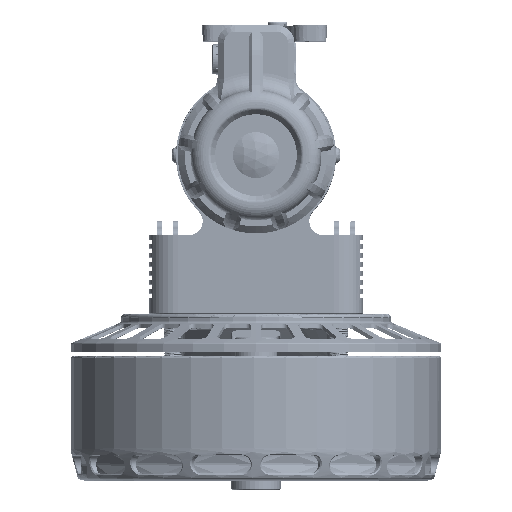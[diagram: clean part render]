
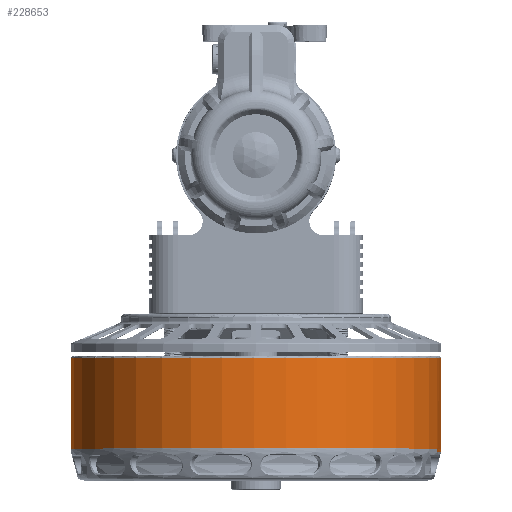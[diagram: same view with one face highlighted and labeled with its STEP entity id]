
A CAD part, top view. The second image highlights one B-rep face of the part: STEP entity #228653.
In plain terms, the highlighted cylindrical face has radius 52 mm (diameter 104 mm), a partial arc.
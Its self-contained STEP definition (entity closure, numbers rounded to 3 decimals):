
#68073=CARTESIAN_POINT('',(0.,-34.4,83.6));
#68074=DIRECTION('',(0.,-1.,0.));
#68075=DIRECTION('',(1.,0.,0.));
#68076=AXIS2_PLACEMENT_3D('',#68073,#68074,#68075);
#68078=CARTESIAN_POINT('',(0.,-34.4,83.6));
#68079=DIRECTION('',(0.,-1.,0.));
#68080=DIRECTION('',(1.,0.,0.007));
#68081=AXIS2_PLACEMENT_3D('',#68078,#68079,#68080);
#68083=CARTESIAN_POINT('',(0.,-34.4,83.6));
#68084=DIRECTION('',(0.,-1.,0.));
#68085=DIRECTION('',(0.981,0.,0.195));
#68086=AXIS2_PLACEMENT_3D('',#68083,#68084,#68085);
#68093=DIRECTION('',(0.,-1.,0.));
#68094=VECTOR('',#68093,25.5);
#68095=CARTESIAN_POINT('',(52.,-34.4,83.6));
#68096=LINE('',#68095,#68094);
#68097=DIRECTION('',(0.,1.,0.));
#68098=VECTOR('',#68097,1.);
#68099=CARTESIAN_POINT('',(51.001,-60.9,93.745));
#68100=LINE('',#68099,#68098);
#68101=CARTESIAN_POINT('',(0.,-59.9,83.6));
#68102=DIRECTION('',(0.,-1.,0.));
#68103=DIRECTION('',(0.981,0.,0.195));
#68104=AXIS2_PLACEMENT_3D('',#68101,#68102,#68103);
#68106=DIRECTION('',(0.,-1.,0.));
#68107=VECTOR('',#68106,25.5);
#68108=CARTESIAN_POINT('',(-52.,-34.4,83.6));
#68109=LINE('',#68108,#68107);
#68110=DIRECTION('',(0.,1.,0.));
#68111=VECTOR('',#68110,1.);
#68112=CARTESIAN_POINT('',(-51.001,-60.9,73.455));
#68113=LINE('',#68112,#68111);
#68114=CARTESIAN_POINT('',(0.,-59.9,83.6));
#68115=DIRECTION('',(0.,-1.,0.));
#68116=DIRECTION('',(-0.981,0.,-0.195));
#68117=AXIS2_PLACEMENT_3D('',#68114,#68115,#68116);
#69937=CARTESIAN_POINT('',(0.,-60.9,83.6));
#69938=DIRECTION('',(0.,1.,0.));
#69939=DIRECTION('',(0.981,0.,0.195));
#69940=AXIS2_PLACEMENT_3D('',#69937,#69938,#69939);
#125034=CARTESIAN_POINT('',(-52.,-34.4,83.6));
#125035=VERTEX_POINT('',#125034);
#125037=CARTESIAN_POINT('',(52.,-34.4,83.6));
#125039=VERTEX_POINT('',#125037);
#125042=CARTESIAN_POINT('',(51.001,-34.4,93.745));
#125043=VERTEX_POINT('',#125042);
#125044=CARTESIAN_POINT('',(51.999,-34.4,83.959));
#125045=VERTEX_POINT('',#125044);
#125046=CARTESIAN_POINT('',(52.,-59.9,83.6));
#125047=VERTEX_POINT('',#125046);
#125048=CARTESIAN_POINT('',(-51.001,-59.9,73.455));
#125049=VERTEX_POINT('',#125048);
#125050=CARTESIAN_POINT('',(-51.001,-60.9,73.455));
#125051=VERTEX_POINT('',#125050);
#125052=CARTESIAN_POINT('',(51.001,-60.9,93.745));
#125053=VERTEX_POINT('',#125052);
#125054=CARTESIAN_POINT('',(51.001,-59.9,93.745));
#125055=VERTEX_POINT('',#125054);
#125056=CARTESIAN_POINT('',(-52.,-59.9,83.6));
#125057=VERTEX_POINT('',#125056);
#228629=CARTESIAN_POINT('',(0.,-24.77,
83.6));
#228630=DIRECTION('',(0.,1.,0.));
#228631=DIRECTION('',(-0.981,0.,-0.195));
#228632=AXIS2_PLACEMENT_3D('',#228629,#228630,#228631);
#228633=CYLINDRICAL_SURFACE('',#228632,52.);
#228634=ORIENTED_EDGE('',*,*,#228623,.F.);
#228635=ORIENTED_EDGE('',*,*,#228621,.F.);
#228636=ORIENTED_EDGE('',*,*,#228619,.F.);
#228638=ORIENTED_EDGE('',*,*,#228637,.T.);
#228640=ORIENTED_EDGE('',*,*,#228639,.F.);
#228642=ORIENTED_EDGE('',*,*,#228641,.F.);
#228644=ORIENTED_EDGE('',*,*,#228643,.F.);
#228646=ORIENTED_EDGE('',*,*,#228645,.T.);
#228648=ORIENTED_EDGE('',*,*,#228647,.T.);
#228650=ORIENTED_EDGE('',*,*,#228649,.F.);
#228651=EDGE_LOOP('',(#228634,#228635,#228636,#228638,#228640,#228642,#228644,
#228646,#228648,#228650));
#228652=FACE_OUTER_BOUND('',#228651,.F.);
#68077=CIRCLE('',#68076,52.);
#68082=CIRCLE('',#68081,52.);
#68087=CIRCLE('',#68086,52.);
#68105=CIRCLE('',#68104,52.);
#68118=CIRCLE('',#68117,52.);
#69941=CIRCLE('',#69940,52.);
#228619=EDGE_CURVE('',#125039,#125045,#68077,.T.);
#228621=EDGE_CURVE('',#125045,#125043,#68082,.T.);
#228623=EDGE_CURVE('',#125043,#125035,#68087,.T.);
#228637=EDGE_CURVE('',#125039,#125047,#68096,.T.);
#228639=EDGE_CURVE('',#125049,#125047,#68118,.T.);
#228641=EDGE_CURVE('',#125051,#125049,#68113,.T.);
#228643=EDGE_CURVE('',#125053,#125051,#69941,.T.);
#228645=EDGE_CURVE('',#125053,#125055,#68100,.T.);
#228647=EDGE_CURVE('',#125055,#125057,#68105,.T.);
#228649=EDGE_CURVE('',#125035,#125057,#68109,.T.);
#228653=ADVANCED_FACE('',(#228652),#228633,.T.);
